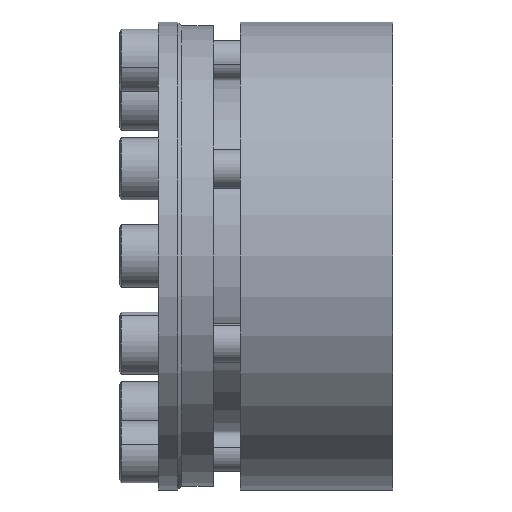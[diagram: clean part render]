
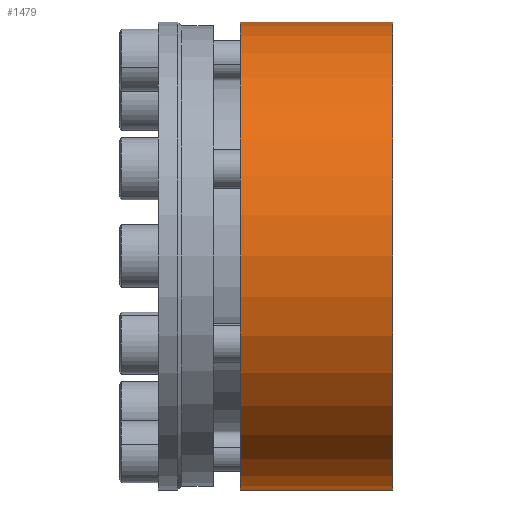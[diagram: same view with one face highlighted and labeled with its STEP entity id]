
A CAD part, front view. The second image highlights one B-rep face of the part: STEP entity #1479.
In plain terms, the highlighted cylindrical face has radius 60 mm (diameter 120 mm), a partial arc.
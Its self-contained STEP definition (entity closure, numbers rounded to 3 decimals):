
#1283 = VERTEX_POINT ( 'NONE', #3775 ) ;
#1285 = EDGE_CURVE ( 'NONE', #1307, #1283, #3774, .T. ) ;
#1307 = VERTEX_POINT ( 'NONE', #3852 ) ;
#1308 = VERTEX_POINT ( 'NONE', #3851 ) ;
#1310 = EDGE_CURVE ( 'NONE', #1308, #1311, #3850, .T. ) ;
#1311 = VERTEX_POINT ( 'NONE', #3846 ) ;
#1389 = EDGE_CURVE ( 'NONE', #1308, #1307, #3966, .T. ) ;
#1478 = EDGE_CURVE ( 'NONE', #1311, #1283, #4105, .T. ) ;
#1479 = ADVANCED_FACE ( 'NONE', ( #4100 ), #4099, .T. ) ;
#1480 = EDGE_LOOP ( 'NONE', ( #1481, #1482, #1483, #1484 ) ) ;
#1481 = ORIENTED_EDGE ( 'NONE', *, *, #1310, .F. ) ;
#1482 = ORIENTED_EDGE ( 'NONE', *, *, #1389, .T. ) ;
#1483 = ORIENTED_EDGE ( 'NONE', *, *, #1285, .T. ) ;
#1484 = ORIENTED_EDGE ( 'NONE', *, *, #1478, .F. ) ;
#3771 = DIRECTION ( 'NONE',  ( -1., 0., 0. ) ) ;
#3772 = VECTOR ( 'NONE', #3771, 1000. ) ;
#3773 = CARTESIAN_POINT ( 'NONE',  ( 0., 0., 60. ) ) ;
#3774 = LINE ( 'NONE', #3773, #3772 ) ;
#3775 = CARTESIAN_POINT ( 'NONE',  ( 21., 0., 60. ) ) ;
#3846 = CARTESIAN_POINT ( 'NONE',  ( 21., 0., -60. ) ) ;
#3847 = DIRECTION ( 'NONE',  ( -1., 0., 0. ) ) ;
#3848 = VECTOR ( 'NONE', #3847, 1000. ) ;
#3849 = CARTESIAN_POINT ( 'NONE',  ( 0., 0., -60. ) ) ;
#3850 = LINE ( 'NONE', #3849, #3848 ) ;
#3851 = CARTESIAN_POINT ( 'NONE',  ( 60., 0., -60. ) ) ;
#3852 = CARTESIAN_POINT ( 'NONE',  ( 60., 0., 60. ) ) ;
#3962 = DIRECTION ( 'NONE',  ( 0., 0., 1. ) ) ;
#3963 = DIRECTION ( 'NONE',  ( -1., 0., 0. ) ) ;
#3964 = CARTESIAN_POINT ( 'NONE',  ( 60., 0., 0. ) ) ;
#3965 = AXIS2_PLACEMENT_3D ( 'NONE', #3964, #3963, #3962 ) ;
#3966 = CIRCLE ( 'NONE', #3965, 60. ) ;
#4095 = DIRECTION ( 'NONE',  ( 0., 0., 1. ) ) ;
#4096 = DIRECTION ( 'NONE',  ( -1., 0., 0. ) ) ;
#4097 = CARTESIAN_POINT ( 'NONE',  ( 0., 0., 0. ) ) ;
#4098 = AXIS2_PLACEMENT_3D ( 'NONE', #4097, #4096, #4095 ) ;
#4099 = CYLINDRICAL_SURFACE ( 'NONE', #4098, 60. ) ;
#4100 = FACE_OUTER_BOUND ( 'NONE', #1480, .T. ) ;
#4101 = DIRECTION ( 'NONE',  ( 0., 0., 1. ) ) ;
#4102 = DIRECTION ( 'NONE',  ( -1., 0., 0. ) ) ;
#4103 = CARTESIAN_POINT ( 'NONE',  ( 21., 0., 0. ) ) ;
#4104 = AXIS2_PLACEMENT_3D ( 'NONE', #4103, #4102, #4101 ) ;
#4105 = CIRCLE ( 'NONE', #4104, 60. ) ;
